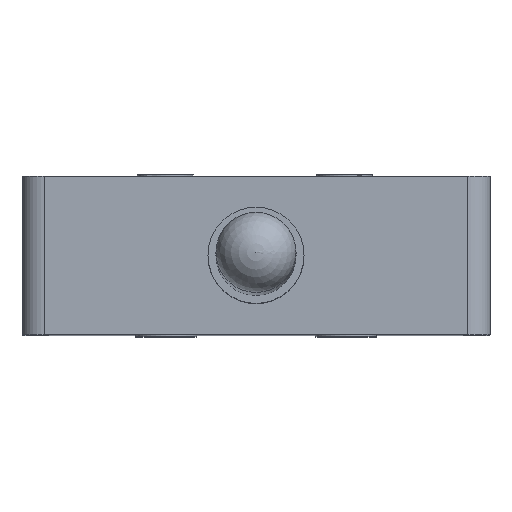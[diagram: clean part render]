
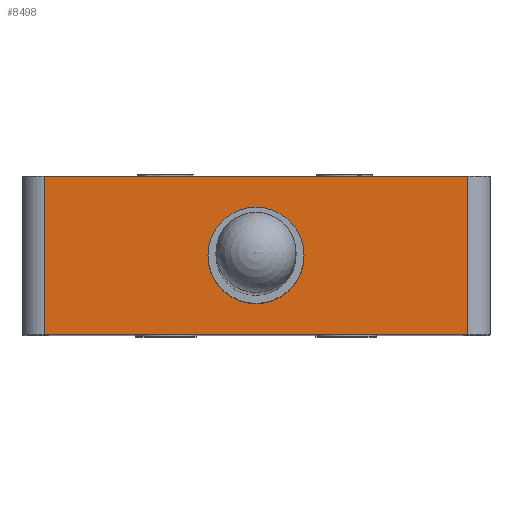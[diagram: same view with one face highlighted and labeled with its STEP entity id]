
A CAD part, top view. The second image highlights one B-rep face of the part: STEP entity #8498.
In plain terms, the highlighted planar face has unit normal (0, 0, 1).
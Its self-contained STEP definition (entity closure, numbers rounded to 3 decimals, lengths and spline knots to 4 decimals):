
#86=FACE_BOUND($,#1533,.T.);
#87=FACE_BOUND($,#1534,.T.);
#682=PLANE($,#9149);
#1533=EDGE_LOOP($,(#6325));
#1534=EDGE_LOOP($,(#6326,#6327,#6328,#6329));
#2003=LINE($,#12431,#2566);
#2018=LINE($,#12642,#2581);
#2091=LINE($,#12849,#2654);
#2092=LINE($,#12853,#2655);
#2566=VECTOR($,#9938,1.32);
#2581=VECTOR($,#10185,1.32);
#2654=VECTOR($,#10456,0.494);
#2655=VECTOR($,#10461,0.494);
#3153=CIRCLE($,#9150,0.15);
#3487=VERTEX_POINT($,#12428);
#3488=VERTEX_POINT($,#12430);
#3567=VERTEX_POINT($,#12639);
#3568=VERTEX_POINT($,#12641);
#3604=VERTEX_POINT($,#12851);
#4386=EDGE_CURVE($,#3488,#3487,#2003,.T.);
#4486=EDGE_CURVE($,#3567,#3568,#2018,.T.);
#4591=EDGE_CURVE($,#3488,#3567,#2091,.T.);
#4592=EDGE_CURVE($,#3604,#3604,#3153,.T.);
#4593=EDGE_CURVE($,#3568,#3487,#2092,.T.);
#6325=ORIENTED_EDGE($,*,*,#4592,.T.);
#6326=ORIENTED_EDGE($,*,*,#4591,.F.);
#6327=ORIENTED_EDGE($,*,*,#4386,.T.);
#6328=ORIENTED_EDGE($,*,*,#4593,.F.);
#6329=ORIENTED_EDGE($,*,*,#4486,.F.);
#8498=ADVANCED_FACE($,(#86,#87),#682,.T.);
#9149=AXIS2_PLACEMENT_3D($,#12850,#10457,#10458);
#9150=AXIS2_PLACEMENT_3D($,#12852,#10459,#10460);
#9938=DIRECTION($,(1.,0.,0.));
#10185=DIRECTION($,(1.,0.,0.));
#10456=DIRECTION($,(0.,1.,0.));
#10457=DIRECTION('center_axis',(0.,0.,1.));
#10458=DIRECTION('ref_axis',(1.,0.,0.));
#10459=DIRECTION('center_axis',(0.,0.,-1.));
#10460=DIRECTION('ref_axis',(1.,0.,0.));
#10461=DIRECTION($,(0.,-1.,0.));
#12428=CARTESIAN_POINT('',(-0.07,0.,1.535));
#12430=CARTESIAN_POINT('',(-1.39,0.,1.535));
#12431=CARTESIAN_POINT($,(-1.46,0.,1.535));
#12639=CARTESIAN_POINT('',(-1.39,0.494,1.535));
#12641=CARTESIAN_POINT('',(-0.07,0.494,1.535));
#12642=CARTESIAN_POINT($,(-1.46,0.494,1.535));
#12849=CARTESIAN_POINT($,(-1.39,0.,1.535));
#12850=CARTESIAN_POINT('Origin',(-1.46,0.,1.535));
#12851=CARTESIAN_POINT('',(-0.88,0.247,1.535));
#12852=CARTESIAN_POINT('Origin',(-0.73,0.247,1.535));
#12853=CARTESIAN_POINT($,(-0.07,0.,1.535));
